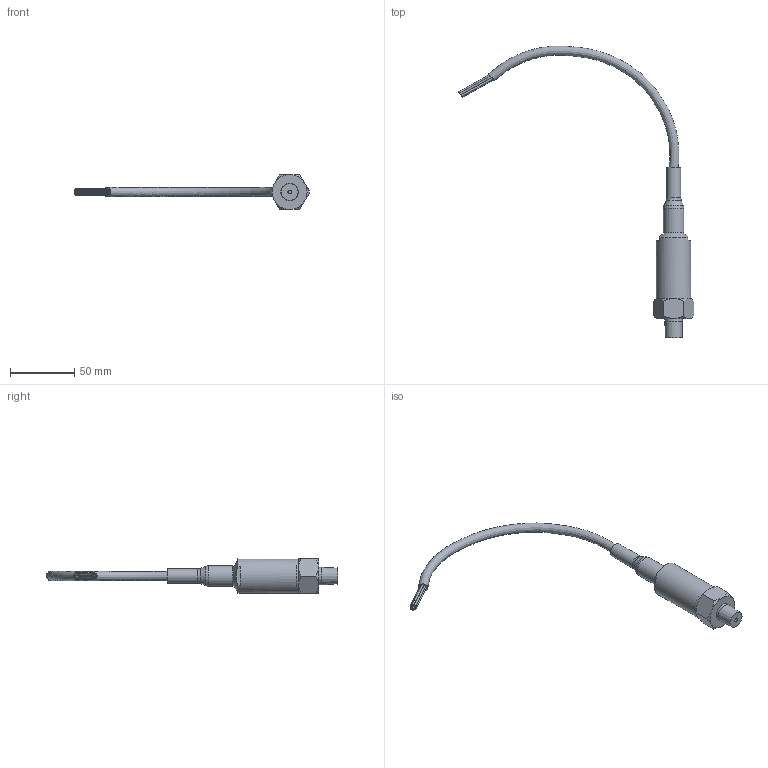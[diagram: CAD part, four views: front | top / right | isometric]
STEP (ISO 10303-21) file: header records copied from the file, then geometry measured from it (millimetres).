
FILE_DESCRIPTION(/* description */ (''),/* implementation_level */ '2;1');
FILE_NAME(/* name */ '40-000048.ipt.stp',/* time_stamp */ '2024-09-20T08:01:00-07:00',/* author */ ('phong'),/* organization */ (''),/* preprocessor_version */ 'ST-DEVELOPER v20',/* originating_system */ 'Autodesk Inventor 2024',/* authorisation */ '');
FILE_SCHEMA (('AUTOMOTIVE_DESIGN { 1 0 10303 214 3 1 1 }'));
Length unit declared in the file: inch
Products named in the file (1): 40-000048
Bounding box: 182.79 x 226.45 x 27 mm (x, y, z)
Volume: 31256.3 mm3; surface area: 23570.3 mm2
Topology: 2 solids, 7 shells, 111 faces, 196 edges, 123 vertices
Faces by surface type: plane 50, cylinder 29, cone 22, bspline 9, torus 1
Full cylindrical faces by diameter (mm): 0.66 x1, 3 x1, 5.1 x1, 7.315 x2, 7.493 x1, 7.595 x1, 7.722 x2, 7.976 x1, 10.554 x2, 10.986 x2, 11.074 x1, 11.862 x1, 13.17 x1, 13.335 x1, 13.716 x1, 15.989 x1, 19 x1, 20 x1, 23 x1, 23.1 x1, 23.917 x1, 25.908 x1, 26.861 x1
Entity records: 3237 total; most frequent: CARTESIAN_POINT 992, DIRECTION 469, ORIENTED_EDGE 392, AXIS2_PLACEMENT_3D 206, EDGE_CURVE 196, EDGE_LOOP 143, VERTEX_POINT 123, FACE_OUTER_BOUND 111
